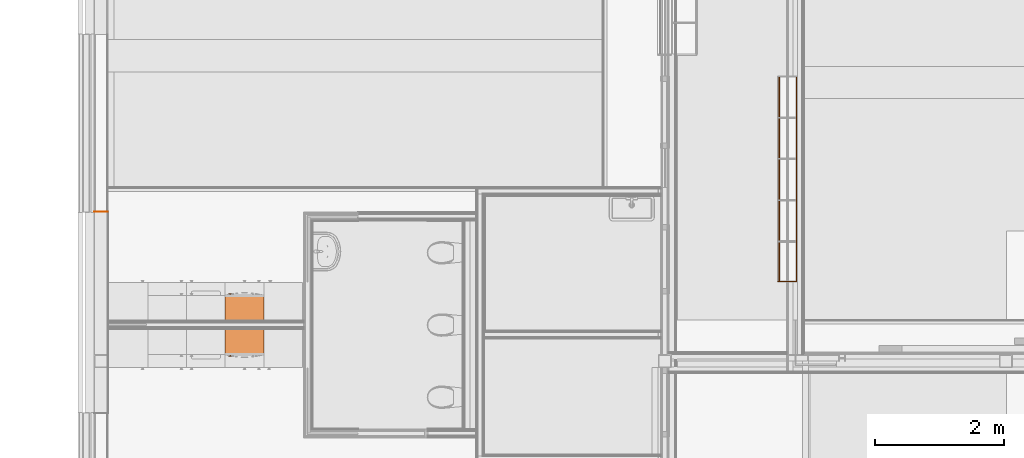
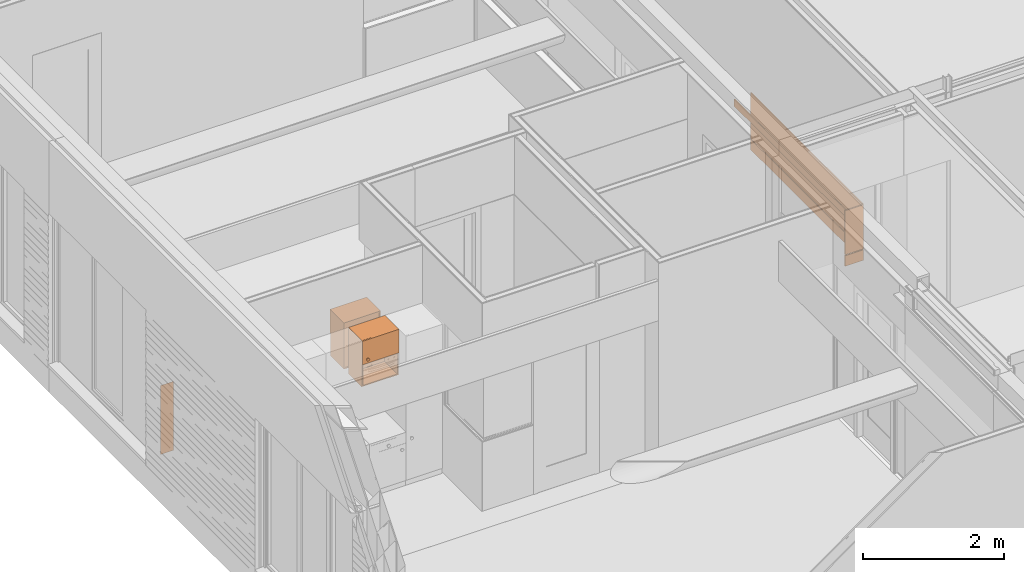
# One storey, part 151 of 165: 6 proxies.
"""IFC2X3 building model written with IfcOpenShell, lengths in millimetres."""

from ifc_helpers import new_model, entity, si_unit, converted_unit, derived_unit, money_unit, direction, frame, origin_with_axes, place, context, subcontext, project, spatial, faceted_brep, material, type_object, element, save


model = new_model("IFC2X3")

# Units and contexts
model_context = context("Model", 3, precision=0.01, world=origin_with_axes(), true_north=direction((0.0, 1.0)))
body_context = subcontext(model_context, "Body", "Model", "MODEL_VIEW")
ifc_project = project(units=[si_unit("LENGTHUNIT", "METRE", prefix="MILLI"), si_unit("AREAUNIT", "SQUARE_METRE"), si_unit("VOLUMEUNIT", "CUBIC_METRE"), converted_unit("PLANEANGLEUNIT", "DEGREE", entity("IfcPlaneAngleMeasure", 0.0174532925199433), si_unit("PLANEANGLEUNIT", "RADIAN"), dimensions=[0, 0, 0, 0, 0, 0, 0]), money_unit("EUR"), converted_unit("TIMEUNIT", "Year", entity("IfcTimeMeasure", 31556926.0), si_unit("TIMEUNIT", "SECOND"), dimensions=[0, 0, 1, 0, 0, 0, 0]), si_unit("MASSUNIT", "GRAM", prefix="KILO"), si_unit("THERMODYNAMICTEMPERATUREUNIT", "DEGREE_CELSIUS"), si_unit("LUMINOUSINTENSITYUNIT", "LUMEN"), si_unit("ENERGYUNIT", "JOULE", prefix="MEGA"), derived_unit("THERMALCONDUCTANCEUNIT", [(si_unit("POWERUNIT", "WATT"), 1), (si_unit("LENGTHUNIT", "METRE"), -1), (si_unit("THERMODYNAMICTEMPERATUREUNIT", "KELVIN"), -1)]), derived_unit("SPECIFICHEATCAPACITYUNIT", [(si_unit("ENERGYUNIT", "JOULE"), 1), (si_unit("MASSUNIT", "GRAM", prefix="KILO"), -1), (si_unit("THERMODYNAMICTEMPERATUREUNIT", "KELVIN"), -1)]), derived_unit("MASSDENSITYUNIT", [(si_unit("MASSUNIT", "GRAM", prefix="KILO"), 1), (si_unit("VOLUMEUNIT", "CUBIC_METRE"), -1)])], contexts=[model_context])

# Site, building, storey
site_placement = place(None, origin_with_axes())
site = spatial("IfcSite", under=ifc_project, at=site_placement, Name="Site", CompositionType="ELEMENT")
building_placement = place(site_placement, origin_with_axes())
building = spatial("IfcBuilding", under=site, at=building_placement, Name="Naam gebouw", CompositionType="ELEMENT")
storey_placement = place(building_placement, origin_with_axes())
storey = spatial("IfcBuildingStorey", under=building, at=storey_placement, Name="Begane grond", CompositionType="ELEMENT", Elevation=0.0)

# Proxies
ifc_material_1 = material(Name="Hout - Multiplex")
building_element_proxy_type_1 = type_object("IfcBuildingElementProxyType", Name="Hout - Multiplex 1", PredefinedType="NOTDEFINED")
proxy_1_placement = place(storey_placement, frame((214.0000000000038, 13124.9998112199, 3.999999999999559), z_axis=(0.0, 0.0, 1.0), x_axis=(-1.0, 0.0, 0.0)))
element("IfcBuildingElementProxy", 1, at=proxy_1_placement, inside=storey, type_object=building_element_proxy_type_1, material=ifc_material_1, Name="i4 In lagen verlijmd hout_Leeg", context=body_context, shape_type="Brep", body=[
    faceted_brep([(0.0, -0.9999999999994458, 1196.0), (214.0000000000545, -1.000000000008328, 1196.0), (214.0000000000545, 0.0, 1196.0), (0.0, 0.0, 1196.0), (0.0, -0.9999999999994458, 0.0), (214.0000000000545, -1.000000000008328, 0.0), (214.0000000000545, 0.0, 0.0), (0.0, 0.0, 0.0)], [[[0, 1, 2, 3]], [[4, 5, 1, 0]], [[2, 1, 5, 6]], [[3, 2, 6, 7]], [[4, 0, 3, 7]], [[7, 6, 5, 4]]]),
])
ifc_material_2 = material(Name="Hout AFW")
building_element_proxy_type_2 = type_object("IfcBuildingElementProxyType", Name="Hout AFW 18", PredefinedType="NOTDEFINED")
proxy_2_placement = place(storey_placement, frame((10882.00000000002, 12035.00003229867, 200.0000000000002), z_axis=(0.0, 0.0, 1.0), x_axis=(-1.0, 0.0, 0.0)))
element("IfcBuildingElementProxy", 2, at=proxy_2_placement, inside=storey, type_object=building_element_proxy_type_2, material=ifc_material_2, Name="i HOUT_Wand-x", context=body_context, shape_type="Brep", body=[
    faceted_brep([(282.0, -18.00000000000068, 18.00000000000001), (282.0, -18.00000000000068, 200.0), (-18.00000000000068, -18.00000000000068, 200.0), (-18.00000000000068, -18.00000000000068, 18.00000000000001), (282.0, 0.0, 18.00000000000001), (282.0, 0.0, 200.0), (-18.00000000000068, 0.0, 200.0), (-18.00000000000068, 0.0, 18.00000000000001)], [[[0, 1, 2, 3]], [[4, 5, 1, 0]], [[5, 6, 2, 1]], [[3, 2, 6, 7]], [[4, 0, 3, 7]], [[7, 6, 5, 4]]]),
    faceted_brep([(-18.00000000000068, 0.0, 1000.0), (-18.00000000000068, 0.0, 218.0), (-18.00000000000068, -18.00000000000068, 218.0), (-18.00000000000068, -18.00000000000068, 1000.0), (282.0, 0.0, 982.0), (282.0, 0.0, 218.0), (0.0, 0.0, 1000.0), (0.0, 0.0, 982.0), (282.0, -18.00000000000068, 218.0), (282.0, -18.00000000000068, 982.0), (0.0, -18.00000000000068, 982.0), (0.0, -18.00000000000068, 1000.0)], [[[0, 1, 2, 3]], [[4, 5, 1, 0, 6, 7]], [[5, 8, 2, 1]], [[3, 2, 8, 9, 10, 11]], [[3, 11, 6, 0]], [[9, 8, 5, 4]], [[7, 6, 11, 10]], [[7, 10, 9, 4]]]),
])
proxy_3_placement = place(storey_placement, frame((10882.00000000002, 15235.00003229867, 200.0000000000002), z_axis=(0.0, 0.0, 1.0), x_axis=(0.0, -1.0, 0.0)))
element("IfcBuildingElementProxy", 3, at=proxy_3_placement, inside=storey, type_object=building_element_proxy_type_2, material=ifc_material_2, Name="i HOUT_Wand-x", context=body_context, shape_type="Brep", body=[
    faceted_brep([(18.00000000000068, 0.0, 18.00000000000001), (18.00000000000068, 0.0, 199.9999999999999), (18.00000000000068, 18.00000000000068, 200.0), (18.00000000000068, 18.00000000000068, 18.00000000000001), (3182.0, 0.0, 18.00000000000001), (3182.0, 0.0, 200.0), (3182.0, 18.00000000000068, 200.0), (3182.0, 18.00000000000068, 18.00000000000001)], [[[0, 1, 2, 3]], [[4, 5, 1, 0]], [[5, 6, 2, 1]], [[3, 2, 6, 7]], [[4, 0, 3, 7]], [[7, 6, 5, 4]]]),
    faceted_brep([(3182.0, 17.99999999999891, 1000.0), (3182.0, 18.00000000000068, 218.0), (18.00000000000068, 18.00000000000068, 218.0), (18.00000000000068, 18.00000000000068, 1000.0), (3182.0, 0.0, 1000.0), (3182.0, 0.0, 218.0), (18.00000000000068, 0.0, 218.0), (18.00000000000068, 0.0, 1000.0)], [[[0, 1, 2, 3]], [[4, 5, 1, 0]], [[5, 6, 2, 1]], [[3, 2, 6, 7]], [[7, 4, 0, 3]], [[7, 6, 5, 4]]]),
])
proxy_4_placement = place(storey_placement, frame((10615.00000000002, 15235.00003229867, 1062.0), z_axis=(0.0, 0.0, 1.0), x_axis=(0.0, -1.0, 0.0)))
element("IfcBuildingElementProxy", 4, at=proxy_4_placement, inside=storey, type_object=building_element_proxy_type_2, material=ifc_material_2, Name="i HOUT_Wand-x", context=body_context, shape_type="Brep", body=[
    faceted_brep([(18.00000000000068, 0.0, 0.0), (18.00000000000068, 0.0, 119.9999999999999), (18.00000000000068, 18.00000000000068, 119.9999999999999), (18.00000000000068, 18.00000000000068, 0.0), (3182.0, 0.0, 0.0), (3182.0, 0.0, 119.9999999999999), (3182.0, 17.99999999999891, 119.9999999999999), (3182.0, 17.99999999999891, 0.0)], [[[0, 1, 2, 3]], [[4, 5, 1, 0]], [[5, 6, 2, 1]], [[3, 2, 6, 7]], [[3, 7, 4, 0]], [[7, 6, 5, 4]]]),
])
building_element_proxy_type_3 = type_object("IfcBuildingElementProxyType", Name="Bovenkast recht 26", PredefinedType="NOTDEFINED")
proxy_5_placement = place(storey_placement, frame((2632.000000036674, 11307.48676502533, 300.0000000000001), z_axis=(0.0, 0.0, 1.0), x_axis=(0.9999999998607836, -1.668630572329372e-05, 0.0)))
element("IfcBuildingElementProxy", 5, at=proxy_5_placement, inside=storey, type_object=building_element_proxy_type_3, Name="_Leeg", context=body_context, shape_type="Brep", body=[
    faceted_brep([(-18.0, -380.0, 1891.0), (-18.0, -380.0, 1909.0), (-582.0, -380.0, 1909.0), (-582.0, -380.0, 1891.0), (-18.0, -18.0, 1891.0), (-18.0, -18.0, 1909.0), (-582.0, -18.0, 1909.0), (-582.0, -18.0, 1891.0)], [[[0, 1, 2, 3]], [[4, 5, 1, 0]], [[1, 5, 6, 2]], [[3, 2, 6, 7]], [[0, 3, 7, 4]], [[7, 6, 5, 4]]]),
    faceted_brep([(-532.8176930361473, -398.0, 1967.916221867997), (-533.0000000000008, -398.0, 1970.0), (-532.8176930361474, -398.0, 1972.083778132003), (-532.2763114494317, -398.0, 1974.104241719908), (-531.3923048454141, -398.0, 1976.0), (-530.1925333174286, -398.0, 1977.713451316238), (-528.7134513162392, -398.0, 1979.192533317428), (-527.0000000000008, -398.0, 1980.392304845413), (-525.1042417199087, -398.0, 1981.276311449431), (-523.0837781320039, -398.0, 1981.817693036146), (-521.0000000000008, -398.0, 1982.0), (-518.9162218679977, -398.0, 1981.817693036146), (-516.8957582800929, -398.0, 1981.276311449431), (-515.0000000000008, -398.0, 1980.392304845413), (-513.2865486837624, -398.0, 1979.192533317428), (-511.807466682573, -398.0, 1977.713451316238), (-510.6076951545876, -398.0, 1976.0), (-509.7236885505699, -398.0, 1974.104241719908), (-509.1823069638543, -398.0, 1972.083778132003), (-509.0000000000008, -398.0, 1970.0), (-509.1823069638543, -398.0, 1967.916221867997), (-509.7236885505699, -398.0, 1965.895758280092), (-510.6076951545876, -398.0, 1964.0), (-511.807466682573, -398.0, 1962.286548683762), (-513.2865486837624, -398.0, 1960.807466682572), (-515.0000000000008, -398.0, 1959.607695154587), (-516.8957582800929, -398.0, 1958.723688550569), (-518.9162218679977, -398.0, 1958.182306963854), (-521.0000000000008, -398.0, 1958.0), (-523.0837781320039, -398.0, 1958.182306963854), (-525.1042417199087, -398.0, 1958.723688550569), (-527.0000000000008, -398.0, 1959.607695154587), (-528.7134513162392, -398.0, 1960.807466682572), (-530.1925333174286, -398.0, 1962.286548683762), (-531.392304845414, -398.0, 1964.0), (-532.2763114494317, -398.0, 1965.895758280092), (-532.8176930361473, -418.0000000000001, 1967.916221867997), (-533.0000000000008, -418.0000000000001, 1970.0), (-532.8176930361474, -418.0000000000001, 1972.083778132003), (-532.2763114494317, -418.0000000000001, 1974.104241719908), (-531.3923048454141, -418.0000000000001, 1976.0), (-530.1925333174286, -418.0000000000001, 1977.713451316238), (-528.7134513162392, -418.0000000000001, 1979.192533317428), (-527.0000000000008, -418.0000000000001, 1980.392304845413), (-525.1042417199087, -418.0000000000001, 1981.276311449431), (-523.0837781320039, -418.0000000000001, 1981.817693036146), (-521.0000000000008, -418.0000000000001, 1982.0), (-518.9162218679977, -418.0000000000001, 1981.817693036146), (-516.8957582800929, -418.0000000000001, 1981.276311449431), (-515.0000000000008, -418.0000000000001, 1980.392304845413), (-513.2865486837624, -418.0000000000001, 1979.192533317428), (-511.807466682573, -418.0000000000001, 1977.713451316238), (-510.6076951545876, -418.0000000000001, 1976.0), (-509.7236885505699, -418.0000000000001, 1974.104241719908), (-509.1823069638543, -418.0000000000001, 1972.083778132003), (-509.0000000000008, -418.0000000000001, 1970.0), (-509.1823069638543, -418.0000000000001, 1967.916221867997), (-509.7236885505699, -418.0000000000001, 1965.895758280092), (-510.6076951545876, -418.0000000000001, 1964.0), (-511.807466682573, -418.0000000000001, 1962.286548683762), (-513.2865486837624, -418.0000000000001, 1960.807466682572), (-515.0000000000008, -418.0000000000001, 1959.607695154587), (-516.8957582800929, -418.0000000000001, 1958.723688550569), (-518.9162218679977, -418.0000000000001, 1958.182306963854), (-521.0000000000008, -418.0000000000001, 1958.0), (-523.0837781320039, -418.0000000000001, 1958.182306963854), (-525.1042417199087, -418.0000000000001, 1958.723688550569), (-527.0000000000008, -418.0000000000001, 1959.607695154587), (-528.7134513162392, -418.0000000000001, 1960.807466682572), (-530.1925333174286, -418.0000000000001, 1962.286548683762), (-531.392304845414, -418.0000000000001, 1964.0), (-532.2763114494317, -418.0000000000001, 1965.895758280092)], [[[0, 1, 2, 3, 4, 5, 6, 7, 8, 9, 10, 11, 12, 13, 14, 15, 16, 17, 18, 19, 20, 21, 22, 23, 24, 25, 26, 27, 28, 29, 30, 31, 32, 33, 34, 35]], [[0, 36, 37, 1]], [[1, 37, 38, 2]], [[2, 38, 39, 3]], [[3, 39, 40, 4]], [[4, 40, 41, 5]], [[5, 41, 42, 6]], [[6, 42, 43, 7]], [[7, 43, 44, 8]], [[8, 44, 45, 9]], [[9, 45, 46, 10]], [[10, 46, 47, 11]], [[11, 47, 48, 12]], [[12, 48, 49, 13]], [[13, 49, 50, 14]], [[14, 50, 51, 15]], [[15, 51, 52, 16]], [[16, 52, 53, 17]], [[17, 53, 54, 18]], [[18, 54, 55, 19]], [[19, 55, 56, 20]], [[20, 56, 57, 21]], [[21, 57, 58, 22]], [[22, 58, 59, 23]], [[23, 59, 60, 24]], [[24, 60, 61, 25]], [[25, 61, 62, 26]], [[26, 62, 63, 27]], [[27, 63, 64, 28]], [[28, 64, 65, 29]], [[29, 65, 66, 30]], [[30, 66, 67, 31]], [[31, 67, 68, 32]], [[32, 68, 69, 33]], [[33, 69, 70, 34]], [[34, 70, 71, 35]], [[35, 71, 36, 0]], [[36, 71, 70, 69, 68, 67, 66, 65, 64, 63, 62, 61, 60, 59, 58, 57, 56, 55, 54, 53, 52, 51, 50, 49, 48, 47, 46, 45, 44, 43, 42, 41, 40, 39, 38, 37]]]),
    faceted_brep([(-544.6353860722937, -418.0000000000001, 1965.832443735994), (-545.0000000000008, -418.0000000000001, 1970.0), (-544.6353860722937, -418.0000000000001, 1974.167556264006), (-543.5526228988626, -418.0000000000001, 1978.208483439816), (-541.7846096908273, -418.0000000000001, 1982.0), (-539.3850666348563, -418.0000000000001, 1985.426902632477), (-536.4269026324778, -418.0000000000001, 1988.385066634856), (-533.0000000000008, -418.0000000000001, 1990.784609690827), (-529.2084834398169, -418.0000000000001, 1992.552622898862), (-525.1675562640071, -418.0000000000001, 1993.635386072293), (-521.0000000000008, -418.0000000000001, 1994.0), (-516.8324437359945, -418.0000000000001, 1993.635386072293), (-512.7915165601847, -418.0000000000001, 1992.552622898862), (-509.0000000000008, -418.0000000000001, 1990.784609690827), (-505.5730973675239, -418.0000000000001, 1988.385066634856), (-502.6149333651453, -418.0000000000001, 1985.426902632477), (-500.2153903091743, -418.0000000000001, 1982.0), (-498.447377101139, -418.0000000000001, 1978.208483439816), (-497.3646139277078, -418.0000000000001, 1974.167556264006), (-497.0000000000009, -418.0000000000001, 1970.0), (-497.3646139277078, -418.0000000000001, 1965.832443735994), (-498.447377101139, -418.0000000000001, 1961.791516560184), (-500.2153903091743, -418.0000000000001, 1958.0), (-502.6149333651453, -418.0000000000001, 1954.573097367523), (-505.5730973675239, -418.0000000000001, 1951.614933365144), (-509.0000000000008, -418.0000000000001, 1949.215390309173), (-512.7915165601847, -418.0000000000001, 1947.447377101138), (-516.8324437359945, -418.0000000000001, 1946.364613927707), (-521.0000000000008, -418.0000000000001, 1946.0), (-525.1675562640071, -418.0000000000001, 1946.364613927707), (-529.2084834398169, -418.0000000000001, 1947.447377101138), (-533.0000000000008, -418.0000000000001, 1949.215390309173), (-536.4269026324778, -418.0000000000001, 1951.614933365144), (-539.3850666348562, -418.0000000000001, 1954.573097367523), (-541.7846096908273, -418.0000000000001, 1958.0), (-543.5526228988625, -418.0000000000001, 1961.791516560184), (-544.6353860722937, -428.0000000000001, 1965.832443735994), (-545.0000000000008, -428.0000000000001, 1970.0), (-544.6353860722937, -428.0000000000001, 1974.167556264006), (-543.5526228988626, -428.0000000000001, 1978.208483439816), (-541.7846096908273, -428.0000000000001, 1982.0), (-539.3850666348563, -428.0000000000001, 1985.426902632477), (-536.4269026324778, -428.0000000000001, 1988.385066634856), (-533.0000000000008, -428.0000000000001, 1990.784609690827), (-529.2084834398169, -428.0000000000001, 1992.552622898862), (-525.1675562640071, -428.0000000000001, 1993.635386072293), (-521.0000000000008, -428.0000000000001, 1994.0), (-516.8324437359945, -428.0000000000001, 1993.635386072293), (-512.7915165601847, -428.0000000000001, 1992.552622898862), (-509.0000000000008, -428.0000000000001, 1990.784609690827), (-505.5730973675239, -428.0000000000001, 1988.385066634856), (-502.6149333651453, -428.0000000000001, 1985.426902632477), (-500.2153903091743, -428.0000000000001, 1982.0), (-498.447377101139, -428.0000000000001, 1978.208483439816), (-497.3646139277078, -428.0000000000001, 1974.167556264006), (-497.0000000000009, -428.0000000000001, 1970.0), (-497.3646139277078, -428.0000000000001, 1965.832443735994), (-498.447377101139, -428.0000000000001, 1961.791516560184), (-500.2153903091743, -428.0000000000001, 1958.0), (-502.6149333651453, -428.0000000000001, 1954.573097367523), (-505.5730973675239, -428.0000000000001, 1951.614933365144), (-509.0000000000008, -428.0000000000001, 1949.215390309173), (-512.7915165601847, -428.0000000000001, 1947.447377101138), (-516.8324437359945, -428.0000000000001, 1946.364613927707), (-521.0000000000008, -428.0000000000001, 1946.0), (-525.1675562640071, -428.0000000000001, 1946.364613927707), (-529.2084834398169, -428.0000000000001, 1947.447377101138), (-533.0000000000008, -428.0000000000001, 1949.215390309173), (-536.4269026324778, -428.0000000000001, 1951.614933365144), (-539.3850666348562, -428.0000000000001, 1954.573097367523), (-541.7846096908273, -428.0000000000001, 1958.0), (-543.5526228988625, -428.0000000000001, 1961.791516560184)], [[[0, 1, 2, 3, 4, 5, 6, 7, 8, 9, 10, 11, 12, 13, 14, 15, 16, 17, 18, 19, 20, 21, 22, 23, 24, 25, 26, 27, 28, 29, 30, 31, 32, 33, 34, 35]], [[0, 36, 37, 1]], [[1, 37, 38, 2]], [[2, 38, 39, 3]], [[3, 39, 40, 4]], [[4, 40, 41, 5]], [[5, 41, 42, 6]], [[6, 42, 43, 7]], [[7, 43, 44, 8]], [[8, 44, 45, 9]], [[9, 45, 46, 10]], [[10, 46, 47, 11]], [[11, 47, 48, 12]], [[12, 48, 49, 13]], [[13, 49, 50, 14]], [[14, 50, 51, 15]], [[15, 51, 52, 16]], [[16, 52, 53, 17]], [[17, 53, 54, 18]], [[18, 54, 55, 19]], [[19, 55, 56, 20]], [[20, 56, 57, 21]], [[21, 57, 58, 22]], [[22, 58, 59, 23]], [[23, 59, 60, 24]], [[24, 60, 61, 25]], [[25, 61, 62, 26]], [[26, 62, 63, 27]], [[27, 63, 64, 28]], [[28, 64, 65, 29]], [[29, 65, 66, 30]], [[30, 66, 67, 31]], [[31, 67, 68, 32]], [[32, 68, 69, 33]], [[33, 69, 70, 34]], [[34, 70, 71, 35]], [[35, 71, 36, 0]], [[36, 71, 70, 69, 68, 67, 66, 65, 64, 63, 62, 61, 60, 59, 58, 57, 56, 55, 54, 53, 52, 51, 50, 49, 48, 47, 46, 45, 44, 43, 42, 41, 40, 39, 38, 37]]]),
    faceted_brep([(-1.0, -380.0, 1892.0), (-1.0, -398.0, 1892.0), (-599.0, -398.0, 1892.0), (-599.0, -380.0, 1892.0), (-1.0, -380.0, 2299.0), (-1.0, -397.9999999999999, 2299.0), (-599.0, -397.9999999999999, 2299.0), (-599.0, -380.0, 2299.0)], [[[0, 1, 2, 3]], [[4, 5, 1, 0]], [[1, 5, 6, 2]], [[3, 2, 6, 7]], [[0, 3, 7, 4]], [[7, 6, 5, 4]]]),
    faceted_brep([(-18.0, -380.0, 1500.0), (-18.0, -380.0, 1518.0), (-582.0, -380.0, 1518.0), (-582.0, -380.0, 1500.0), (-18.0, 0.0, 1500.0), (-18.0, 0.0, 1518.0), (-582.0, 0.0, 1518.0), (-582.0, 0.0, 1500.0)], [[[0, 1, 2, 3]], [[4, 5, 1, 0]], [[1, 5, 6, 2]], [[3, 2, 6, 7]], [[0, 3, 7, 4]], [[7, 6, 5, 4]]]),
    faceted_brep([(-18.0, -380.0, 2282.0), (-18.0, -380.0, 2300.0), (-582.0, -380.0, 2300.0), (-582.0, -380.0, 2282.0), (-18.0, 0.0, 2282.0), (-18.0, 0.0, 2300.0), (-582.0, 0.0, 2300.0), (-582.0, 0.0, 2282.0)], [[[0, 1, 2, 3]], [[4, 5, 1, 0]], [[1, 5, 6, 2]], [[3, 2, 6, 7]], [[0, 3, 7, 4]], [[7, 6, 5, 4]]]),
    faceted_brep([(0.0, 0.0, 1500.0), (0.0, 0.0, 2300.0), (0.0, -380.0, 2300.0), (0.0, -380.0, 1500.0), (-18.0, 0.0, 1500.0), (-18.0, 0.0, 2300.0), (-18.0, -380.0, 2300.0), (-18.0, -380.0, 1500.0)], [[[0, 1, 2, 3]], [[4, 5, 1, 0]], [[1, 5, 6, 2]], [[3, 2, 6, 7]], [[0, 3, 7, 4]], [[7, 6, 5, 4]]]),
    faceted_brep([(-600.0, -380.0, 1500.0), (-600.0, -380.0, 2300.0), (-600.0, 0.0, 2300.0), (-600.0, 0.0, 1500.0), (-582.0, -380.0, 1500.0), (-582.0, -380.0, 2300.0), (-582.0, 0.0, 2300.0), (-582.0, 0.0, 1500.0)], [[[0, 1, 2, 3]], [[4, 5, 1, 0]], [[1, 5, 6, 2]], [[3, 2, 6, 7]], [[0, 3, 7, 4]], [[7, 6, 5, 4]]]),
    faceted_brep([(-582.0, -9.0, 1518.0), (-582.0, -9.0, 2282.0), (-18.00000000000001, -9.0, 2282.0), (-18.00000000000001, -9.0, 1518.0), (-582.0, -18.0, 1518.0), (-582.0, -18.0, 2282.0), (-18.00000000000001, -18.0, 2282.0), (-18.00000000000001, -18.0, 1518.0)], [[[0, 1, 2, 3]], [[4, 5, 1, 0]], [[1, 5, 6, 2]], [[3, 2, 6, 7]], [[0, 3, 7, 4]], [[7, 6, 5, 4]]]),
])
proxy_6_placement = place(storey_placement, frame((2632.000570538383, 11432.52027047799, 300.0000000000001), z_axis=(0.0, 0.0, 1.0), x_axis=(-0.9999999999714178, -7.560724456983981e-06, 0.0)))
element("IfcBuildingElementProxy", 6, at=proxy_6_placement, inside=storey, type_object=building_element_proxy_type_3, Name="_Leeg", context=body_context, shape_type="Brep", body=[
    faceted_brep([(18.0, -380.0, 1891.0), (582.0, -380.0, 1891.0), (582.0, -380.0, 1909.0), (18.0, -380.0, 1909.0), (18.0, -18.0, 1891.0), (582.0, -18.0, 1891.0), (582.0, -18.0, 1909.0), (18.0, -18.0, 1909.0)], [[[0, 1, 2, 3]], [[0, 4, 5, 1]], [[1, 5, 6, 2]], [[3, 2, 6, 7]], [[4, 0, 3, 7]], [[5, 4, 7, 6]]]),
    faceted_brep([(532.8176930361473, -398.0, 1967.916221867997), (532.2763114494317, -398.0, 1965.895758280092), (531.392304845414, -398.0, 1964.0), (530.1925333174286, -398.0, 1962.286548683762), (528.7134513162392, -398.0, 1960.807466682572), (527.0000000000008, -398.0, 1959.607695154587), (525.1042417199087, -398.0, 1958.723688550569), (523.0837781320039, -398.0, 1958.182306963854), (521.0000000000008, -398.0, 1958.0), (518.9162218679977, -398.0, 1958.182306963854), (516.8957582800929, -398.0, 1958.723688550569), (515.0000000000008, -398.0, 1959.607695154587), (513.2865486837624, -398.0, 1960.807466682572), (511.807466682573, -398.0, 1962.286548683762), (510.6076951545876, -398.0, 1964.0), (509.7236885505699, -398.0, 1965.895758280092), (509.1823069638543, -398.0, 1967.916221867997), (509.0000000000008, -398.0, 1970.0), (509.1823069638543, -398.0, 1972.083778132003), (509.7236885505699, -398.0, 1974.104241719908), (510.6076951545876, -398.0, 1976.0), (511.807466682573, -398.0, 1977.713451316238), (513.2865486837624, -398.0, 1979.192533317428), (515.0000000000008, -398.0, 1980.392304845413), (516.8957582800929, -398.0, 1981.276311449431), (518.9162218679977, -398.0, 1981.817693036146), (521.0000000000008, -398.0, 1982.0), (523.0837781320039, -398.0, 1981.817693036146), (525.1042417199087, -398.0, 1981.276311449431), (527.0000000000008, -398.0, 1980.392304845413), (528.7134513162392, -398.0, 1979.192533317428), (530.1925333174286, -398.0, 1977.713451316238), (531.3923048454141, -398.0, 1976.0), (532.2763114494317, -398.0, 1974.104241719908), (532.8176930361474, -398.0, 1972.083778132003), (533.0000000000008, -398.0, 1970.0), (532.8176930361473, -418.0000000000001, 1967.916221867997), (532.2763114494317, -418.0000000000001, 1965.895758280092), (531.392304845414, -418.0000000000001, 1964.0), (530.1925333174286, -418.0000000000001, 1962.286548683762), (528.7134513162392, -418.0000000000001, 1960.807466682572), (527.0000000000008, -418.0000000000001, 1959.607695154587), (525.1042417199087, -418.0000000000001, 1958.723688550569), (523.0837781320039, -418.0000000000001, 1958.182306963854), (521.0000000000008, -418.0000000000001, 1958.0), (518.9162218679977, -418.0000000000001, 1958.182306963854), (516.8957582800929, -418.0000000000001, 1958.723688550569), (515.0000000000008, -418.0000000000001, 1959.607695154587), (513.2865486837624, -418.0000000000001, 1960.807466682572), (511.807466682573, -418.0000000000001, 1962.286548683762), (510.6076951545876, -418.0000000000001, 1964.0), (509.7236885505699, -418.0000000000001, 1965.895758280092), (509.1823069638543, -418.0000000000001, 1967.916221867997), (509.0000000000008, -418.0000000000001, 1970.0), (509.1823069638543, -418.0000000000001, 1972.083778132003), (509.7236885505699, -418.0000000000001, 1974.104241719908), (510.6076951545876, -418.0000000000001, 1976.0), (511.807466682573, -418.0000000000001, 1977.713451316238), (513.2865486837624, -418.0000000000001, 1979.192533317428), (515.0000000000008, -418.0000000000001, 1980.392304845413), (516.8957582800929, -418.0000000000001, 1981.276311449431), (518.9162218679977, -418.0000000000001, 1981.817693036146), (521.0000000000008, -418.0000000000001, 1982.0), (523.0837781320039, -418.0000000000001, 1981.817693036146), (525.1042417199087, -418.0000000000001, 1981.276311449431), (527.0000000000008, -418.0000000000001, 1980.392304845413), (528.7134513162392, -418.0000000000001, 1979.192533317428), (530.1925333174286, -418.0000000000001, 1977.713451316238), (531.3923048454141, -418.0000000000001, 1976.0), (532.2763114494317, -418.0000000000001, 1974.104241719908), (532.8176930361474, -418.0000000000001, 1972.083778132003), (533.0000000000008, -418.0000000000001, 1970.0)], [[[0, 1, 2, 3, 4, 5, 6, 7, 8, 9, 10, 11, 12, 13, 14, 15, 16, 17, 18, 19, 20, 21, 22, 23, 24, 25, 26, 27, 28, 29, 30, 31, 32, 33, 34, 35]], [[1, 0, 36, 37]], [[2, 1, 37, 38]], [[3, 2, 38, 39]], [[4, 3, 39, 40]], [[5, 4, 40, 41]], [[6, 5, 41, 42]], [[7, 6, 42, 43]], [[8, 7, 43, 44]], [[9, 8, 44, 45]], [[10, 9, 45, 46]], [[11, 10, 46, 47]], [[12, 11, 47, 48]], [[13, 12, 48, 49]], [[14, 13, 49, 50]], [[15, 14, 50, 51]], [[16, 15, 51, 52]], [[17, 16, 52, 53]], [[18, 17, 53, 54]], [[19, 18, 54, 55]], [[20, 19, 55, 56]], [[21, 20, 56, 57]], [[22, 21, 57, 58]], [[23, 22, 58, 59]], [[24, 23, 59, 60]], [[25, 24, 60, 61]], [[26, 25, 61, 62]], [[27, 26, 62, 63]], [[28, 27, 63, 64]], [[29, 28, 64, 65]], [[30, 29, 65, 66]], [[31, 30, 66, 67]], [[32, 31, 67, 68]], [[33, 32, 68, 69]], [[34, 33, 69, 70]], [[35, 34, 70, 71]], [[0, 35, 71, 36]], [[36, 71, 70, 69, 68, 67, 66, 65, 64, 63, 62, 61, 60, 59, 58, 57, 56, 55, 54, 53, 52, 51, 50, 49, 48, 47, 46, 45, 44, 43, 42, 41, 40, 39, 38, 37]]]),
    faceted_brep([(544.6353860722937, -418.0000000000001, 1965.832443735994), (543.5526228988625, -418.0000000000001, 1961.791516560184), (541.7846096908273, -418.0000000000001, 1958.0), (539.3850666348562, -418.0000000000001, 1954.573097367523), (536.4269026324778, -418.0000000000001, 1951.614933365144), (533.0000000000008, -418.0000000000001, 1949.215390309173), (529.2084834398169, -418.0000000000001, 1947.447377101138), (525.1675562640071, -418.0000000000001, 1946.364613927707), (521.0000000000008, -418.0000000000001, 1946.0), (516.8324437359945, -418.0000000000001, 1946.364613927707), (512.7915165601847, -418.0000000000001, 1947.447377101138), (509.0000000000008, -418.0000000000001, 1949.215390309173), (505.5730973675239, -418.0000000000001, 1951.614933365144), (502.6149333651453, -418.0000000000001, 1954.573097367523), (500.2153903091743, -418.0000000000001, 1958.0), (498.447377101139, -418.0000000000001, 1961.791516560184), (497.3646139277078, -418.0000000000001, 1965.832443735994), (497.0000000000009, -418.0000000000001, 1970.0), (497.3646139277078, -418.0000000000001, 1974.167556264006), (498.447377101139, -418.0000000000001, 1978.208483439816), (500.2153903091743, -418.0000000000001, 1982.0), (502.6149333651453, -418.0000000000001, 1985.426902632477), (505.5730973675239, -418.0000000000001, 1988.385066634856), (509.0000000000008, -418.0000000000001, 1990.784609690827), (512.7915165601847, -418.0000000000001, 1992.552622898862), (516.8324437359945, -418.0000000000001, 1993.635386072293), (521.0000000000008, -418.0000000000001, 1994.0), (525.1675562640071, -418.0000000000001, 1993.635386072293), (529.2084834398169, -418.0000000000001, 1992.552622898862), (533.0000000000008, -418.0000000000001, 1990.784609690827), (536.4269026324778, -418.0000000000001, 1988.385066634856), (539.3850666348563, -418.0000000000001, 1985.426902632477), (541.7846096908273, -418.0000000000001, 1982.0), (543.5526228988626, -418.0000000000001, 1978.208483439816), (544.6353860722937, -418.0000000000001, 1974.167556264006), (545.0000000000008, -418.0000000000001, 1970.0), (544.6353860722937, -428.0000000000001, 1965.832443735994), (543.5526228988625, -428.0000000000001, 1961.791516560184), (541.7846096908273, -428.0000000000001, 1958.0), (539.3850666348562, -428.0000000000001, 1954.573097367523), (536.4269026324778, -428.0000000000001, 1951.614933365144), (533.0000000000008, -428.0000000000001, 1949.215390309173), (529.2084834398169, -428.0000000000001, 1947.447377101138), (525.1675562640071, -428.0000000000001, 1946.364613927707), (521.0000000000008, -428.0000000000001, 1946.0), (516.8324437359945, -428.0000000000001, 1946.364613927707), (512.7915165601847, -428.0000000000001, 1947.447377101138), (509.0000000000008, -428.0000000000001, 1949.215390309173), (505.5730973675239, -428.0000000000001, 1951.614933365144), (502.6149333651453, -428.0000000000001, 1954.573097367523), (500.2153903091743, -428.0000000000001, 1958.0), (498.447377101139, -428.0000000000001, 1961.791516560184), (497.3646139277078, -428.0000000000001, 1965.832443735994), (497.0000000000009, -428.0000000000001, 1970.0), (497.3646139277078, -428.0000000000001, 1974.167556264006), (498.447377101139, -428.0000000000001, 1978.208483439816), (500.2153903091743, -428.0000000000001, 1982.0), (502.6149333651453, -428.0000000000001, 1985.426902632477), (505.5730973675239, -428.0000000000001, 1988.385066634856), (509.0000000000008, -428.0000000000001, 1990.784609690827), (512.7915165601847, -428.0000000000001, 1992.552622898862), (516.8324437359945, -428.0000000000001, 1993.635386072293), (521.0000000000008, -428.0000000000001, 1994.0), (525.1675562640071, -428.0000000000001, 1993.635386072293), (529.2084834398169, -428.0000000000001, 1992.552622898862), (533.0000000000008, -428.0000000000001, 1990.784609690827), (536.4269026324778, -428.0000000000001, 1988.385066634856), (539.3850666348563, -428.0000000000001, 1985.426902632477), (541.7846096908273, -428.0000000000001, 1982.0), (543.5526228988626, -428.0000000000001, 1978.208483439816), (544.6353860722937, -428.0000000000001, 1974.167556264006), (545.0000000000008, -428.0000000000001, 1970.0)], [[[0, 1, 2, 3, 4, 5, 6, 7, 8, 9, 10, 11, 12, 13, 14, 15, 16, 17, 18, 19, 20, 21, 22, 23, 24, 25, 26, 27, 28, 29, 30, 31, 32, 33, 34, 35]], [[1, 0, 36, 37]], [[2, 1, 37, 38]], [[3, 2, 38, 39]], [[4, 3, 39, 40]], [[5, 4, 40, 41]], [[6, 5, 41, 42]], [[7, 6, 42, 43]], [[8, 7, 43, 44]], [[9, 8, 44, 45]], [[10, 9, 45, 46]], [[11, 10, 46, 47]], [[12, 11, 47, 48]], [[13, 12, 48, 49]], [[14, 13, 49, 50]], [[15, 14, 50, 51]], [[16, 15, 51, 52]], [[17, 16, 52, 53]], [[18, 17, 53, 54]], [[19, 18, 54, 55]], [[20, 19, 55, 56]], [[21, 20, 56, 57]], [[22, 21, 57, 58]], [[23, 22, 58, 59]], [[24, 23, 59, 60]], [[25, 24, 60, 61]], [[26, 25, 61, 62]], [[27, 26, 62, 63]], [[28, 27, 63, 64]], [[29, 28, 64, 65]], [[30, 29, 65, 66]], [[31, 30, 66, 67]], [[32, 31, 67, 68]], [[33, 32, 68, 69]], [[34, 33, 69, 70]], [[35, 34, 70, 71]], [[0, 35, 71, 36]], [[36, 71, 70, 69, 68, 67, 66, 65, 64, 63, 62, 61, 60, 59, 58, 57, 56, 55, 54, 53, 52, 51, 50, 49, 48, 47, 46, 45, 44, 43, 42, 41, 40, 39, 38, 37]]]),
    faceted_brep([(1.0, -380.0, 1892.0), (599.0, -380.0, 1892.0), (599.0, -398.0, 1892.0), (1.0, -398.0, 1892.0), (1.0, -380.0, 2299.0), (599.0, -380.0, 2299.0), (599.0, -397.9999999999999, 2299.0), (1.0, -397.9999999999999, 2299.0)], [[[0, 1, 2, 3]], [[0, 4, 5, 1]], [[1, 5, 6, 2]], [[3, 2, 6, 7]], [[4, 0, 3, 7]], [[5, 4, 7, 6]]]),
    faceted_brep([(18.0, -380.0, 1500.0), (582.0, -380.0, 1500.0), (582.0, -380.0, 1518.0), (18.0, -380.0, 1518.0), (18.0, 0.0, 1500.0), (582.0, 0.0, 1500.0), (582.0, 0.0, 1518.0), (18.0, 0.0, 1518.0)], [[[0, 1, 2, 3]], [[0, 4, 5, 1]], [[1, 5, 6, 2]], [[3, 2, 6, 7]], [[4, 0, 3, 7]], [[5, 4, 7, 6]]]),
    faceted_brep([(18.0, -380.0, 2282.0), (582.0, -380.0, 2282.0), (582.0, -380.0, 2300.0), (18.0, -380.0, 2300.0), (18.0, 0.0, 2282.0), (582.0, 0.0, 2282.0), (582.0, 0.0, 2300.0), (18.0, 0.0, 2300.0)], [[[0, 1, 2, 3]], [[0, 4, 5, 1]], [[1, 5, 6, 2]], [[3, 2, 6, 7]], [[4, 0, 3, 7]], [[5, 4, 7, 6]]]),
    faceted_brep([(0.0, 0.0, 1500.0), (0.0, -380.0, 1500.0), (0.0, -380.0, 2300.0), (0.0, 0.0, 2300.0), (18.0, 0.0, 1500.0), (18.0, -380.0, 1500.0), (18.0, -380.0, 2300.0), (18.0, 0.0, 2300.0)], [[[0, 1, 2, 3]], [[0, 4, 5, 1]], [[1, 5, 6, 2]], [[3, 2, 6, 7]], [[4, 0, 3, 7]], [[5, 4, 7, 6]]]),
    faceted_brep([(600.0, -380.0, 1500.0), (600.0, 0.0, 1500.0), (600.0, 0.0, 2300.0), (600.0, -380.0, 2300.0), (582.0, -380.0, 1500.0), (582.0, 0.0, 1500.0), (582.0, 0.0, 2300.0), (582.0, -380.0, 2300.0)], [[[0, 1, 2, 3]], [[0, 4, 5, 1]], [[1, 5, 6, 2]], [[3, 2, 6, 7]], [[4, 0, 3, 7]], [[5, 4, 7, 6]]]),
    faceted_brep([(582.0, -9.0, 1518.0), (18.00000000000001, -9.0, 1518.0), (18.00000000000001, -9.0, 2282.0), (582.0, -9.0, 2282.0), (582.0, -18.0, 1518.0), (18.00000000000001, -18.0, 1518.0), (18.00000000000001, -18.0, 2282.0), (582.0, -18.0, 2282.0)], [[[0, 1, 2, 3]], [[0, 4, 5, 1]], [[1, 5, 6, 2]], [[3, 2, 6, 7]], [[4, 0, 3, 7]], [[5, 4, 7, 6]]]),
])

save(model, "model.ifc")
